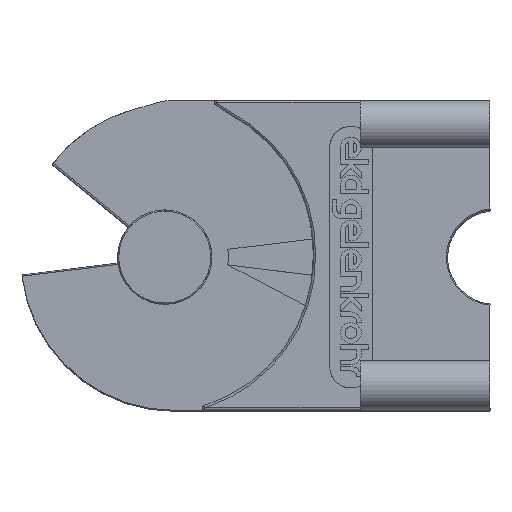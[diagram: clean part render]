
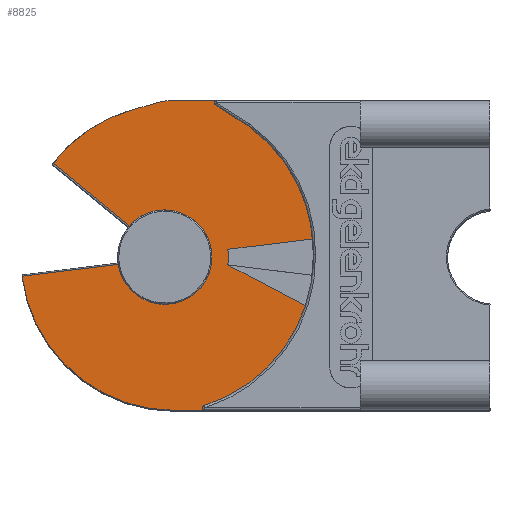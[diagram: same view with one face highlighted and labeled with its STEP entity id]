
A CAD part, top view. The second image highlights one B-rep face of the part: STEP entity #8825.
In plain terms, the highlighted planar face has unit normal (0, 0, 1).
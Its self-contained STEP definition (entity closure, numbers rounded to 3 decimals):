
#6871=CARTESIAN_POINT('',(105.249,139.468,201.028));
#6872=VERTEX_POINT('',#6871);
#6879=CARTESIAN_POINT('',(98.837,139.468,201.028));
#6880=VERTEX_POINT('',#6879);
#6881=CARTESIAN_POINT('',(105.249,139.468,201.028));
#6882=DIRECTION('',(-1.0,0.0,0.0));
#6883=VECTOR('',#6882,6.412);
#6884=LINE('',#6881,#6883);
#6885=EDGE_CURVE('',#6872,#6880,#6884,.T.);
#6915=CARTESIAN_POINT('',(66.588,167.937,201.028));
#6916=VERTEX_POINT('',#6915);
#6917=CARTESIAN_POINT('',(98.837,171.968,201.028));
#6918=DIRECTION('',(0.,0.,-1.0));
#6919=DIRECTION('',(0.993,0.114,0.));
#6920=AXIS2_PLACEMENT_3D('',#6917,#6918,#6919);
#6921=CIRCLE('',#6920,32.5);
#6922=EDGE_CURVE('',#6880,#6916,#6921,.T.);
#6942=CARTESIAN_POINT('',(86.954,170.438,201.028));
#6943=VERTEX_POINT('',#6942);
#6944=CARTESIAN_POINT('',(66.588,167.937,201.028));
#6945=DIRECTION('',(0.993,0.122,0.));
#6946=VECTOR('',#6945,20.52);
#6947=LINE('',#6944,#6946);
#6948=EDGE_CURVE('',#6916,#6943,#6947,.T.);
#6979=CARTESIAN_POINT('',(89.324,178.569,201.028));
#6980=VERTEX_POINT('',#6979);
#6981=CARTESIAN_POINT('',(96.837,171.968,201.028));
#6982=DIRECTION('',(0.0,0.0,-1.0));
#6983=DIRECTION('',(-1.0,0.0,0.0));
#6984=AXIS2_PLACEMENT_3D('',#6981,#6982,#6983);
#6985=CIRCLE('',#6984,10.0);
#6986=EDGE_CURVE('',#6980,#6943,#6985,.T.);
#7006=CARTESIAN_POINT('',(73.161,191.893,201.028));
#7007=VERTEX_POINT('',#7006);
#7008=CARTESIAN_POINT('',(89.324,178.569,201.028));
#7009=DIRECTION('',(-0.772,0.636,0.));
#7010=VECTOR('',#7009,20.948);
#7011=LINE('',#7008,#7010);
#7012=EDGE_CURVE('',#6980,#7007,#7011,.T.);
#7400=CARTESIAN_POINT('',(128.337,171.968,201.028));
#7401=VERTEX_POINT('',#7400);
#7408=CARTESIAN_POINT('',(105.101,140.446,201.028));
#7409=VERTEX_POINT('',#7408);
#7410=CARTESIAN_POINT('',(95.337,171.968,201.028));
#7411=DIRECTION('',(0.,0.,1.));
#7412=DIRECTION('',(0.296,-0.955,0.));
#7413=AXIS2_PLACEMENT_3D('',#7410,#7411,#7412);
#7414=CIRCLE('',#7413,33.);
#7415=EDGE_CURVE('',#7409,#7401,#7414,.T.);
#7433=CARTESIAN_POINT('',(105.249,139.968,201.028));
#7434=DIRECTION('',(0.,0.,-1.0));
#7435=DIRECTION('',(0.296,-0.955,0.));
#7436=AXIS2_PLACEMENT_3D('',#7433,#7434,#7435);
#7437=CIRCLE('',#7436,0.5);
#7438=EDGE_CURVE('',#6872,#7409,#7437,.T.);
#8590=CARTESIAN_POINT('',(128.069,168.133,201.028));
#8591=VERTEX_POINT('',#8590);
#8598=CARTESIAN_POINT('',(93.723,172.455,201.028));
#8599=DIRECTION('',(0.,0.,1.));
#8600=DIRECTION('',(0.995,0.097,0.));
#8601=AXIS2_PLACEMENT_3D('',#8598,#8599,#8600);
#8602=CIRCLE('',#8601,34.617);
#8603=EDGE_CURVE('',#8591,#7401,#8602,.T.);
#8634=CARTESIAN_POINT('',(128.337,172.942,201.028));
#8635=VERTEX_POINT('',#8634);
#8642=CARTESIAN_POINT('',(128.176,175.816,201.028));
#8643=VERTEX_POINT('',#8642);
#8644=CARTESIAN_POINT('',(93.723,172.455,201.028));
#8645=DIRECTION('',(0.,0.,1.));
#8646=DIRECTION('',(0.995,0.097,0.));
#8647=AXIS2_PLACEMENT_3D('',#8644,#8645,#8646);
#8648=CIRCLE('',#8647,34.617);
#8649=EDGE_CURVE('',#8635,#8643,#8648,.T.);
#8668=CARTESIAN_POINT('',(110.236,173.614,201.028));
#8669=VERTEX_POINT('',#8668);
#8670=CARTESIAN_POINT('',(128.176,175.816,201.028));
#8671=DIRECTION('',(-0.993,-0.122,0.));
#8672=VECTOR('',#8671,18.075);
#8673=LINE('',#8670,#8672);
#8674=EDGE_CURVE('',#8643,#8669,#8673,.T.);
#8713=CARTESIAN_POINT('',(110.236,170.323,201.028));
#8714=VERTEX_POINT('',#8713);
#8715=CARTESIAN_POINT('',(96.837,171.968,201.028));
#8716=DIRECTION('',(0.,0.,-1.));
#8717=DIRECTION('',(-0.993,-0.122,0.));
#8718=AXIS2_PLACEMENT_3D('',#8715,#8716,#8717);
#8719=CIRCLE('',#8718,13.5);
#8720=EDGE_CURVE('',#8669,#8714,#8719,.T.);
#8738=CARTESIAN_POINT('',(110.236,170.323,201.028));
#8739=DIRECTION('',(0.993,-0.122,0.));
#8740=VECTOR('',#8739,17.967);
#8741=LINE('',#8738,#8740);
#8742=EDGE_CURVE('',#8714,#8591,#8741,.T.);
#8748=CARTESIAN_POINT('',(97.447,172.309,201.028));
#8749=DIRECTION('',(0.0,0.0,1.0));
#8750=DIRECTION('',(1.0,0.0,0.0));
#8751=AXIS2_PLACEMENT_3D('',#8748,#8749,#8750);
#8752=PLANE('',#8751);
#8753=ORIENTED_EDGE('',*,*,#8649,.F.);
#8754=CARTESIAN_POINT('',(114.561,199.79,201.028));
#8755=VERTEX_POINT('',#8754);
#8756=CARTESIAN_POINT('',(95.337,172.968,201.028));
#8757=DIRECTION('',(0.0,0.0,1.0));
#8758=DIRECTION('',(1.0,0.0,0.0));
#8759=AXIS2_PLACEMENT_3D('',#8756,#8757,#8758);
#8760=CIRCLE('',#8759,33.);
#8761=EDGE_CURVE('',#8635,#8755,#8760,.T.);
#8762=ORIENTED_EDGE('',*,*,#8761,.T.);
#8763=CARTESIAN_POINT('',(107.566,204.247,201.028));
#8764=VERTEX_POINT('',#8763);
#8765=CARTESIAN_POINT('',(114.561,199.79,201.028));
#8766=DIRECTION('',(-0.843,0.537,0.));
#8767=VECTOR('',#8766,8.294);
#8768=LINE('',#8765,#8767);
#8769=EDGE_CURVE('',#8755,#8764,#8768,.T.);
#8770=ORIENTED_EDGE('',*,*,#8769,.T.);
#8771=CARTESIAN_POINT('',(107.835,205.168,201.028));
#8772=VERTEX_POINT('',#8771);
#8773=CARTESIAN_POINT('',(107.835,204.668,201.028));
#8774=DIRECTION('',(0.0,0.0,-1.0));
#8775=DIRECTION('',(0.0,-1.0,0.0));
#8776=AXIS2_PLACEMENT_3D('',#8773,#8774,#8775);
#8777=CIRCLE('',#8776,0.5);
#8778=EDGE_CURVE('',#8764,#8772,#8777,.T.);
#8779=ORIENTED_EDGE('',*,*,#8778,.T.);
#8780=CARTESIAN_POINT('',(98.217,205.168,201.028));
#8781=VERTEX_POINT('',#8780);
#8782=CARTESIAN_POINT('',(98.217,205.168,201.028));
#8783=DIRECTION('',(1.0,0.0,0.0));
#8784=VECTOR('',#8783,9.618);
#8785=LINE('',#8782,#8784);
#8786=EDGE_CURVE('',#8781,#8772,#8785,.T.);
#8787=ORIENTED_EDGE('',*,*,#8786,.F.);
#8788=CARTESIAN_POINT('',(95.508,204.794,201.028));
#8789=VERTEX_POINT('',#8788);
#8790=CARTESIAN_POINT('',(98.217,195.168,201.028));
#8791=DIRECTION('',(0.0,0.0,-1.0));
#8792=DIRECTION('',(0.0,-1.0,0.0));
#8793=AXIS2_PLACEMENT_3D('',#8790,#8791,#8792);
#8794=CIRCLE('',#8793,10.0);
#8795=EDGE_CURVE('',#8789,#8781,#8794,.T.);
#8796=ORIENTED_EDGE('',*,*,#8795,.F.);
#8797=CARTESIAN_POINT('',(90.031,203.253,201.028));
#8798=VERTEX_POINT('',#8797);
#8799=CARTESIAN_POINT('',(90.031,203.253,201.028));
#8800=DIRECTION('',(0.963,0.271,0.0));
#8801=VECTOR('',#8800,5.69);
#8802=LINE('',#8799,#8801);
#8803=EDGE_CURVE('',#8798,#8789,#8802,.T.);
#8804=ORIENTED_EDGE('',*,*,#8803,.F.);
#8805=CARTESIAN_POINT('',(98.837,171.968,201.028));
#8806=DIRECTION('',(0.,0.,-1.));
#8807=DIRECTION('',(0.271,-0.963,0.));
#8808=AXIS2_PLACEMENT_3D('',#8805,#8806,#8807);
#8809=CIRCLE('',#8808,32.5);
#8810=EDGE_CURVE('',#7007,#8798,#8809,.T.);
#8811=ORIENTED_EDGE('',*,*,#8810,.F.);
#8812=ORIENTED_EDGE('',*,*,#7012,.F.);
#8813=ORIENTED_EDGE('',*,*,#6986,.T.);
#8814=ORIENTED_EDGE('',*,*,#6948,.F.);
#8815=ORIENTED_EDGE('',*,*,#6922,.F.);
#8816=ORIENTED_EDGE('',*,*,#6885,.F.);
#8817=ORIENTED_EDGE('',*,*,#7438,.T.);
#8818=ORIENTED_EDGE('',*,*,#7415,.T.);
#8819=ORIENTED_EDGE('',*,*,#8603,.F.);
#8820=ORIENTED_EDGE('',*,*,#8742,.F.);
#8821=ORIENTED_EDGE('',*,*,#8720,.F.);
#8822=ORIENTED_EDGE('',*,*,#8674,.F.);
#8823=EDGE_LOOP('',(#8753,#8762,#8770,#8779,#8787,#8796,#8804,#8811,#8812,#8813,#8814,#8815,#8816,#8817,#8818,#8819,#8820,#8821,#8822));
#8824=FACE_OUTER_BOUND('',#8823,.T.);
#8825=ADVANCED_FACE('',(#8824),#8752,.T.);
